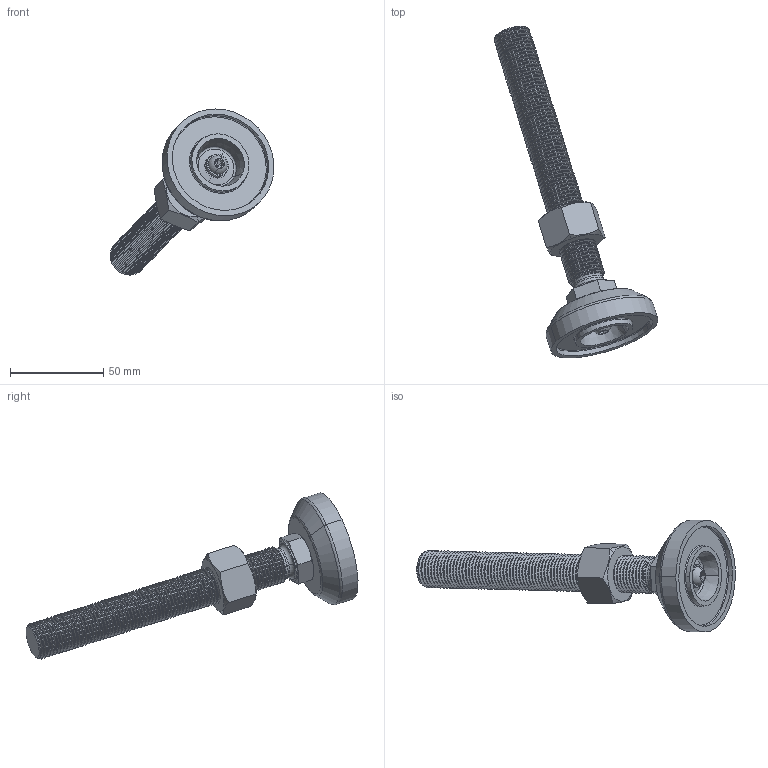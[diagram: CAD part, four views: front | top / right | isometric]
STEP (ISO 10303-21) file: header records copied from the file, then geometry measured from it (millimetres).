
FILE_DESCRIPTION (( 'STEP AP203' ), '1' );
FILE_NAME ('5.24.60.20.180.STEP', '2014-05-20T06:18:04', ( 'USER' ), ( 'Microsoft' ), 'SwSTEP 2.0', 'SolidWorks 2012', '' );
FILE_SCHEMA (( 'CONFIG_CONTROL_DESIGN' ));
Length unit declared in the file: millimetre
Products named in the file (7): 5.24.60.20.180; Hexagon socket button head screws GB_GB_SOCKET_TYPE7 M6X20-N; Hexagon nuts grade C GB_GB_FASTENER_NUT_SNC1 M20-N; Plain washers--Product grade C GB_GB_FASTENER_WASHER_SMWC 6; ￠60金属微调支脚脚垫; M6蹟隊踢扽杶; 150mm-M20支金属微调脚螺杆
Assembly tree (6 placements, depth 2):
  5.24.60.20.180
    150mm-M20支金属微调脚螺杆
    M6蹟隊踢扽杶
    ￠60金属微调支脚脚垫
    Plain washers--Product grade C GB_GB_FASTENER_WASHER_SMWC 6
    Hexagon nuts grade C GB_GB_FASTENER_NUT_SNC1 M20-N
    Hexagon socket button head screws GB_GB_SOCKET_TYPE7 M6X20-N
Bounding box: 87.94 x 178.42 x 89.3 mm (x, y, z)
Volume: 93407.5 mm3; surface area: 31330.4 mm2
Topology: 6 solids, 6 shells, 835 faces, 1686 edges, 868 vertices
Faces by surface type: torus 310, cone 306, cylinder 170, plane 41, sphere 8
Entity records: 22273 total; most frequent: DIRECTION 4514, CARTESIAN_POINT 3536, ORIENTED_EDGE 3368, AXIS2_PLACEMENT_3D 1998, EDGE_CURVE 1684, CIRCLE 1154, VERTEX_POINT 868, EDGE_LOOP 850
